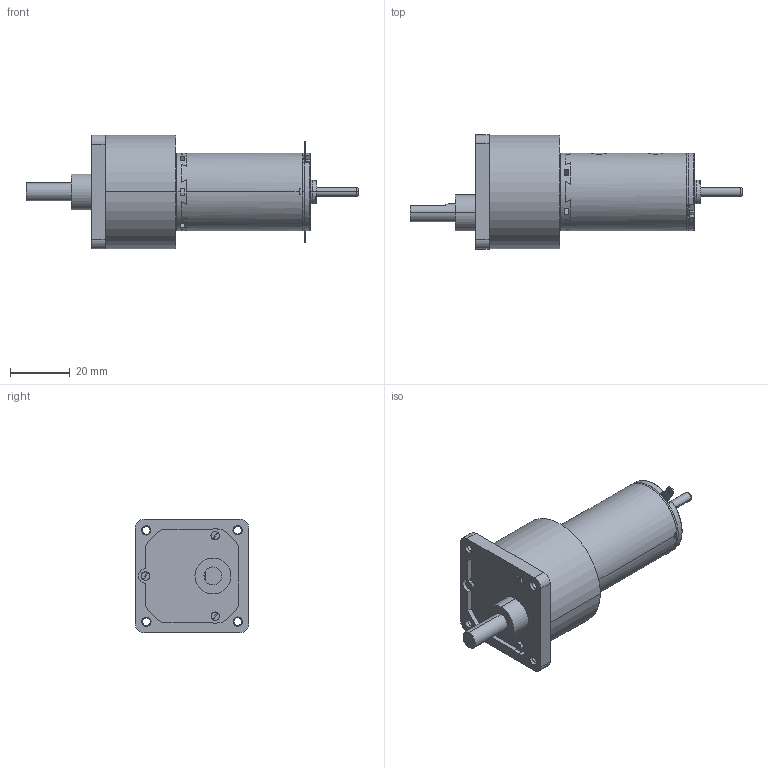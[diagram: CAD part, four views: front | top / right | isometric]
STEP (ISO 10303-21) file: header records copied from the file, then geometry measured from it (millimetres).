
FILE_DESCRIPTION (( 'STEP AP214' ), '1' );
FILE_NAME ('AMAX26CLLHP+GS38A 5étages.STEP', '2015-02-16T09:35:16', ( '' ), ( '' ), 'SwSTEP 2.0', 'SolidWorks 2014', '' );
FILE_SCHEMA (( 'AUTOMOTIVE_DESIGN' ));
Length unit declared in the file: millimetre
Products named in the file (4): Plaque d''appui GS38A; GS38A_GS38A 200:1 5 ‚tages; AMAX-26CLL; AMAX26CLLHP+GS38A 5étages
Assembly tree (3 placements, depth 2):
  AMAX26CLLHP+GS38A 5étages
    AMAX-26CLL
    GS38A_GS38A 200:1 5 ‚tages
    Plaque d''appui GS38A
Bounding box: 110.9 x 38.03 x 38.03 mm (x, y, z)
Volume: 55290.5 mm3; surface area: 15444.1 mm2
Topology: 4 solids, 4 shells, 559 faces, 1506 edges, 985 vertices
Faces by surface type: plane 294, cylinder 196, cone 62, torus 7
Entity records: 19434 total; most frequent: CARTESIAN_POINT 4252, ORIENTED_EDGE 3012, DIRECTION 2909, EDGE_CURVE 1506, AXIS2_PLACEMENT_3D 1060, VERTEX_POINT 985, LINE 789, VECTOR 789
